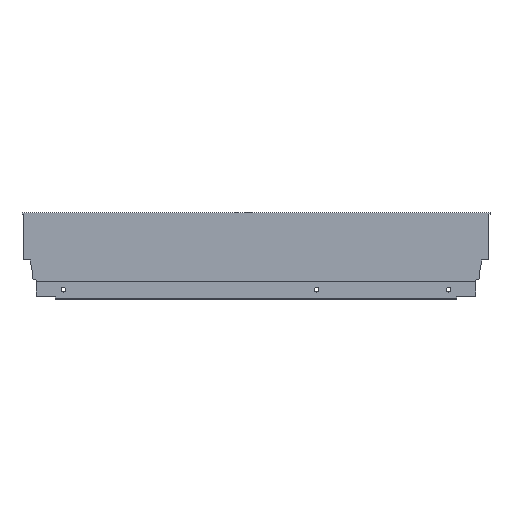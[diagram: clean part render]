
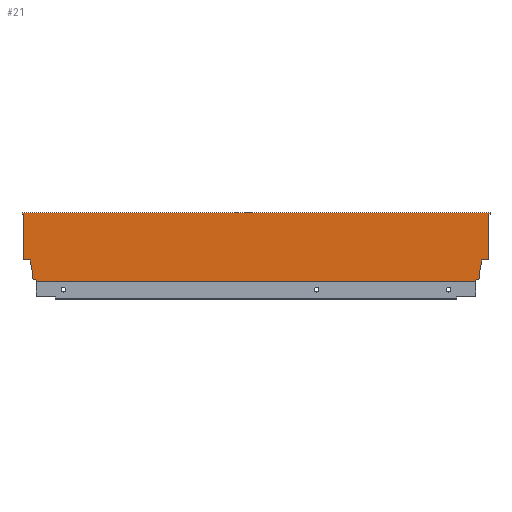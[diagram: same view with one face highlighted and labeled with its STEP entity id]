
A CAD part, top view. The second image highlights one B-rep face of the part: STEP entity #21.
In plain terms, the highlighted planar face has unit normal (0, 0, 1).
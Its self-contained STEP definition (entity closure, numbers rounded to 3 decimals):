
#21 = ADVANCED_FACE ( 'NONE', ( #416 ), #872, .T. ) ;
#286 = ORIENTED_EDGE ( 'NONE', *, *, #1550, .F. ) ;
#290 = ORIENTED_EDGE ( 'NONE', *, *, #1546, .F. ) ;
#291 = ORIENTED_EDGE ( 'NONE', *, *, #1548, .F. ) ;
#292 = ORIENTED_EDGE ( 'NONE', *, *, #1452, .F. ) ;
#293 = ORIENTED_EDGE ( 'NONE', *, *, #1552, .F. ) ;
#294 = ORIENTED_EDGE ( 'NONE', *, *, #1554, .F. ) ;
#295 = ORIENTED_EDGE ( 'NONE', *, *, #1547, .F. ) ;
#296 = ORIENTED_EDGE ( 'NONE', *, *, #1549, .F. ) ;
#297 = ORIENTED_EDGE ( 'NONE', *, *, #1561, .T. ) ;
#298 = ORIENTED_EDGE ( 'NONE', *, *, #1551, .F. ) ;
#299 = ORIENTED_EDGE ( 'NONE', *, *, #1556, .F. ) ;
#300 = ORIENTED_EDGE ( 'NONE', *, *, #1553, .F. ) ;
#301 = ORIENTED_EDGE ( 'NONE', *, *, #1564, .F. ) ;
#302 = ORIENTED_EDGE ( 'NONE', *, *, #1557, .F. ) ;
#303 = ORIENTED_EDGE ( 'NONE', *, *, #1558, .T. ) ;
#362 = EDGE_LOOP ( 'NONE', ( #591, #590, #589, #303, #302, #301, #300, #299, #298, #297, #296, #295, #294, #293, #286, #292, #291, #290 ) ) ;
#416 = FACE_OUTER_BOUND ( 'NONE', #362, .T. ) ;
#516 = VECTOR ( 'NONE', #1122, 1000. ) ;
#523 = LINE ( 'NONE', #1111, #516 ) ;
#589 = ORIENTED_EDGE ( 'NONE', *, *, #1559, .T. ) ;
#590 = ORIENTED_EDGE ( 'NONE', *, *, #1560, .F. ) ;
#591 = ORIENTED_EDGE ( 'NONE', *, *, #1555, .F. ) ;
#649 = LINE ( 'NONE', #1311, #716 ) ;
#689 = LINE ( 'NONE', #1337, #722 ) ;
#691 = VECTOR ( 'NONE', #1356, 1000. ) ;
#696 = LINE ( 'NONE', #1317, #697 ) ;
#697 = VECTOR ( 'NONE', #1318, 1000. ) ;
#698 = LINE ( 'NONE', #1319, #699 ) ;
#699 = VECTOR ( 'NONE', #1320, 1000. ) ;
#700 = LINE ( 'NONE', #1321, #701 ) ;
#701 = VECTOR ( 'NONE', #1322, 1000. ) ;
#702 = LINE ( 'NONE', #1323, #703 ) ;
#703 = VECTOR ( 'NONE', #1324, 1000. ) ;
#704 = LINE ( 'NONE', #1325, #705 ) ;
#705 = VECTOR ( 'NONE', #1326, 1000. ) ;
#706 = LINE ( 'NONE', #1327, #707 ) ;
#707 = VECTOR ( 'NONE', #1328, 1000. ) ;
#708 = LINE ( 'NONE', #1329, #709 ) ;
#709 = VECTOR ( 'NONE', #1330, 1000. ) ;
#710 = LINE ( 'NONE', #1331, #711 ) ;
#711 = VECTOR ( 'NONE', #1332, 1000. ) ;
#712 = LINE ( 'NONE', #1333, #713 ) ;
#713 = VECTOR ( 'NONE', #1334, 1000. ) ;
#714 = LINE ( 'NONE', #1335, #715 ) ;
#715 = VECTOR ( 'NONE', #1336, 1000. ) ;
#716 = VECTOR ( 'NONE', #1338, 1000. ) ;
#717 = LINE ( 'NONE', #1355, #691 ) ;
#718 = LINE ( 'NONE', #1339, #719 ) ;
#719 = VECTOR ( 'NONE', #1340, 1000. ) ;
#720 = LINE ( 'NONE', #1342, #721 ) ;
#721 = VECTOR ( 'NONE', #1343, 1000. ) ;
#722 = VECTOR ( 'NONE', #1345, 1000. ) ;
#724 = LINE ( 'NONE', #1346, #725 ) ;
#725 = VECTOR ( 'NONE', #1347, 1000. ) ;
#726 = LINE ( 'NONE', #1348, #727 ) ;
#727 = VECTOR ( 'NONE', #1349, 1000. ) ;
#747 = VERTEX_POINT ( 'NONE', #1004 ) ;
#752 = VERTEX_POINT ( 'NONE', #1007 ) ;
#757 = VERTEX_POINT ( 'NONE', #1010 ) ;
#758 = VERTEX_POINT ( 'NONE', #1011 ) ;
#761 = VERTEX_POINT ( 'NONE', #1014 ) ;
#770 = VERTEX_POINT ( 'NONE', #1023 ) ;
#783 = VERTEX_POINT ( 'NONE', #1036 ) ;
#872 = PLANE ( 'NONE',  #1588 ) ;
#875 = CARTESIAN_POINT ( 'NONE',  ( -461., 0., 7.5 ) ) ;
#884 = DIRECTION ( 'NONE',  ( 0., 0., 1. ) ) ;
#885 = DIRECTION ( 'NONE',  ( 1., 0., 0. ) ) ;
#1004 = CARTESIAN_POINT ( 'NONE',  ( -462., 68., 7.5 ) ) ;
#1007 = CARTESIAN_POINT ( 'NONE',  ( 0., 66.5, 7.5 ) ) ;
#1010 = CARTESIAN_POINT ( 'NONE',  ( -8.9, 10.765, 7.5 ) ) ;
#1011 = CARTESIAN_POINT ( 'NONE',  ( -453.94, 21.2, 7.5 ) ) ;
#1014 = CARTESIAN_POINT ( 'NONE',  ( -461., 21.2, 7.5 ) ) ;
#1023 = CARTESIAN_POINT ( 'NONE',  ( -7.06, 21.2, 7.5 ) ) ;
#1036 = CARTESIAN_POINT ( 'NONE',  ( 1., 66.5, 7.5 ) ) ;
#1111 = CARTESIAN_POINT ( 'NONE',  ( 0., 0., 7.5 ) ) ;
#1122 = DIRECTION ( 'NONE',  ( 0., -1., 0. ) ) ;
#1311 = CARTESIAN_POINT ( 'NONE',  ( -452.1, 2.64, 7.5 ) ) ;
#1317 = CARTESIAN_POINT ( 'NONE',  ( 1., 68., 7.5 ) ) ;
#1318 = DIRECTION ( 'NONE',  ( 0., -1., 0. ) ) ;
#1319 = CARTESIAN_POINT ( 'NONE',  ( -8.9, 2.64, 7.5 ) ) ;
#1320 = DIRECTION ( 'NONE',  ( -0.94, -0.342, 0. ) ) ;
#1321 = CARTESIAN_POINT ( 'NONE',  ( 1., 66.5, 7.5 ) ) ;
#1322 = DIRECTION ( 'NONE',  ( -1., 0., 0. ) ) ;
#1323 = CARTESIAN_POINT ( 'NONE',  ( -13.004, 1.146, 7.5 ) ) ;
#1324 = DIRECTION ( 'NONE',  ( 0., -1., 0. ) ) ;
#1325 = CARTESIAN_POINT ( 'NONE',  ( 0., 21.2, 7.5 ) ) ;
#1326 = DIRECTION ( 'NONE',  ( -1., 0., 0. ) ) ;
#1327 = CARTESIAN_POINT ( 'NONE',  ( -447.996, 1.146, 7.5 ) ) ;
#1328 = DIRECTION ( 'NONE',  ( 0., 1., 0. ) ) ;
#1329 = CARTESIAN_POINT ( 'NONE',  ( -7.06, 21.2, 7.5 ) ) ;
#1330 = DIRECTION ( 'NONE',  ( -0.174, -0.985, 0. ) ) ;
#1331 = CARTESIAN_POINT ( 'NONE',  ( -452.1, 10.765, 7.5 ) ) ;
#1332 = DIRECTION ( 'NONE',  ( 0., 1., 0. ) ) ;
#1333 = CARTESIAN_POINT ( 'NONE',  ( -8.9, 10.765, 7.5 ) ) ;
#1334 = DIRECTION ( 'NONE',  ( 0., -1., 0. ) ) ;
#1335 = CARTESIAN_POINT ( 'NONE',  ( -461., 68., 7.5 ) ) ;
#1336 = DIRECTION ( 'NONE',  ( 1., 0., 0. ) ) ;
#1337 = CARTESIAN_POINT ( 'NONE',  ( -462., 66.5, 7.5 ) ) ;
#1338 = DIRECTION ( 'NONE',  ( -0.94, 0.342, 0. ) ) ;
#1339 = CARTESIAN_POINT ( 'NONE',  ( -466., 21.2, 7.5 ) ) ;
#1340 = DIRECTION ( 'NONE',  ( -1., 0., 0. ) ) ;
#1342 = CARTESIAN_POINT ( 'NONE',  ( -461., 0., 7.5 ) ) ;
#1343 = DIRECTION ( 'NONE',  ( 0., -1., 0. ) ) ;
#1345 = DIRECTION ( 'NONE',  ( 1., 0., 0. ) ) ;
#1346 = CARTESIAN_POINT ( 'NONE',  ( -462., 66.5, 7.5 ) ) ;
#1347 = DIRECTION ( 'NONE',  ( 0., 1., 0. ) ) ;
#1348 = CARTESIAN_POINT ( 'NONE',  ( -461., 0., 7.5 ) ) ;
#1349 = DIRECTION ( 'NONE',  ( 1., 0., 0. ) ) ;
#1355 = CARTESIAN_POINT ( 'NONE',  ( -453.94, 21.2, 7.5 ) ) ;
#1356 = DIRECTION ( 'NONE',  ( -0.174, 0.985, 0. ) ) ;
#1372 = CARTESIAN_POINT ( 'NONE',  ( 1., 68., 7.5 ) ) ;
#1376 = CARTESIAN_POINT ( 'NONE',  ( -8.9, 2.64, 7.5 ) ) ;
#1377 = CARTESIAN_POINT ( 'NONE',  ( -461., 66.5, 7.5 ) ) ;
#1379 = CARTESIAN_POINT ( 'NONE',  ( -13.004, 0., 7.5 ) ) ;
#1380 = CARTESIAN_POINT ( 'NONE',  ( -447.996, 0., 7.5 ) ) ;
#1384 = CARTESIAN_POINT ( 'NONE',  ( -13.004, 1.146, 7.5 ) ) ;
#1385 = CARTESIAN_POINT ( 'NONE',  ( -462., 66.5, 7.5 ) ) ;
#1389 = CARTESIAN_POINT ( 'NONE',  ( -447.996, 1.146, 7.5 ) ) ;
#1392 = CARTESIAN_POINT ( 'NONE',  ( -452.1, 2.64, 7.5 ) ) ;
#1395 = CARTESIAN_POINT ( 'NONE',  ( 0., 21.2, 7.5 ) ) ;
#1396 = CARTESIAN_POINT ( 'NONE',  ( -452.1, 10.765, 7.5 ) ) ;
#1452 = EDGE_CURVE ( 'NONE', #752, #1670, #523, .T. ) ;
#1546 = EDGE_CURVE ( 'NONE', #1643, #783, #696, .T. ) ;
#1547 = EDGE_CURVE ( 'NONE', #1648, #1657, #698, .T. ) ;
#1548 = EDGE_CURVE ( 'NONE', #783, #752, #700, .T. ) ;
#1549 = EDGE_CURVE ( 'NONE', #1657, #1652, #702, .T. ) ;
#1550 = EDGE_CURVE ( 'NONE', #1670, #770, #704, .T. ) ;
#1551 = EDGE_CURVE ( 'NONE', #1653, #1664, #706, .T. ) ;
#1552 = EDGE_CURVE ( 'NONE', #770, #757, #708, .T. ) ;
#1553 = EDGE_CURVE ( 'NONE', #1667, #1671, #710, .T. ) ;
#1554 = EDGE_CURVE ( 'NONE', #757, #1648, #712, .T. ) ;
#1555 = EDGE_CURVE ( 'NONE', #747, #1643, #714, .T. ) ;
#1556 = EDGE_CURVE ( 'NONE', #1664, #1667, #649, .T. ) ;
#1557 = EDGE_CURVE ( 'NONE', #758, #761, #718, .T. ) ;
#1558 = EDGE_CURVE ( 'NONE', #1649, #761, #720, .T. ) ;
#1559 = EDGE_CURVE ( 'NONE', #1658, #1649, #689, .T. ) ;
#1560 = EDGE_CURVE ( 'NONE', #1658, #747, #724, .T. ) ;
#1561 = EDGE_CURVE ( 'NONE', #1653, #1652, #726, .T. ) ;
#1564 = EDGE_CURVE ( 'NONE', #1671, #758, #717, .T. ) ;
#1588 = AXIS2_PLACEMENT_3D ( 'NONE', #875, #884, #885 ) ;
#1643 = VERTEX_POINT ( 'NONE', #1372 ) ;
#1648 = VERTEX_POINT ( 'NONE', #1376 ) ;
#1649 = VERTEX_POINT ( 'NONE', #1377 ) ;
#1652 = VERTEX_POINT ( 'NONE', #1379 ) ;
#1653 = VERTEX_POINT ( 'NONE', #1380 ) ;
#1657 = VERTEX_POINT ( 'NONE', #1384 ) ;
#1658 = VERTEX_POINT ( 'NONE', #1385 ) ;
#1664 = VERTEX_POINT ( 'NONE', #1389 ) ;
#1667 = VERTEX_POINT ( 'NONE', #1392 ) ;
#1670 = VERTEX_POINT ( 'NONE', #1395 ) ;
#1671 = VERTEX_POINT ( 'NONE', #1396 ) ;
